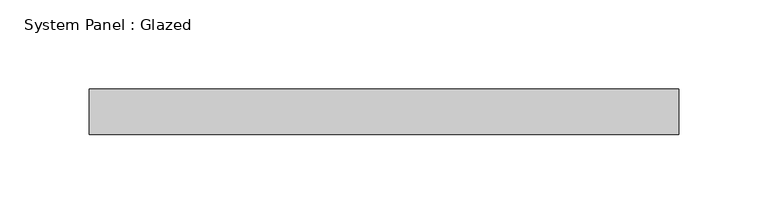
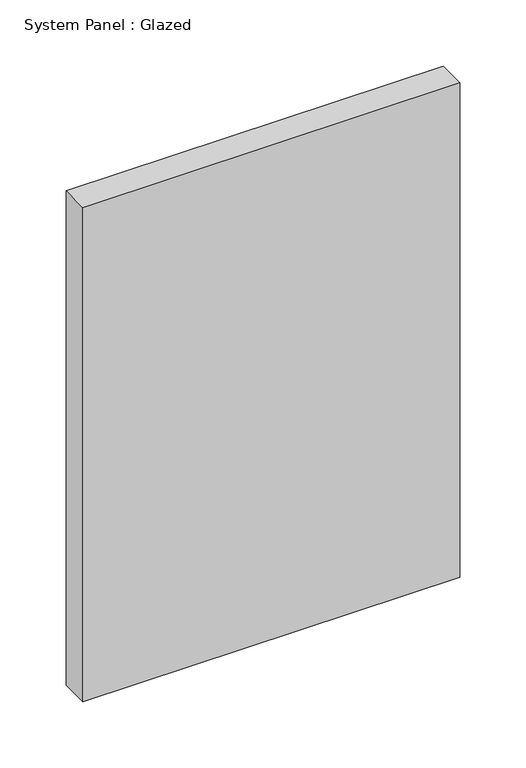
"""IFC4 building model written with IfcOpenShell, lengths in millimetres: plate geometry, System Panel : Glazed."""

from ifc_helpers import new_model, si_unit, origin, origin_with_axes, place, context, project, spatial, polyline, outline, extrude, source, transform, mapped, element, save


def system_panel_glazed_669206e4(model_context):
    return source(origin(), model_context, "Body", "SweptSolid", [
        extrude(outline(polyline([(164.8644972, -44.45), (-164.8644972, -44.45), (-164.8644972, -19.05), (164.8644972, -19.05), (164.8644972, -44.45)])), origin_with_axes(), (0.0, 0.0, 1.0), 457.2),
    ])


if __name__ == "__main__":
    model = new_model("IFC4")
    model_context = context("Model", 3, world=origin())
    ifc_project = project(units=[si_unit("LENGTHUNIT", "METRE", prefix="MILLI")], contexts=[model_context])
    site = spatial("IfcSite", under=ifc_project)
    building = spatial("IfcBuilding", under=site)
    placement = place(None, origin())
    system_panel_glazed_shape = system_panel_glazed_669206e4(model_context)
    element("IfcPlate", 1, ObjectType="System Panel : Glazed", at=placement, inside=building, context=model_context, shape_type="MappedRepresentation", body=[
        mapped(system_panel_glazed_shape, transform((0.0, 0.0, 0.0), x_axis=(1.0, 0.0, 0.0), y_axis=(0.0, 1.0, 0.0), z_axis=(0.0, 0.0, 1.0))),
    ])
    save(model, "model.ifc")
